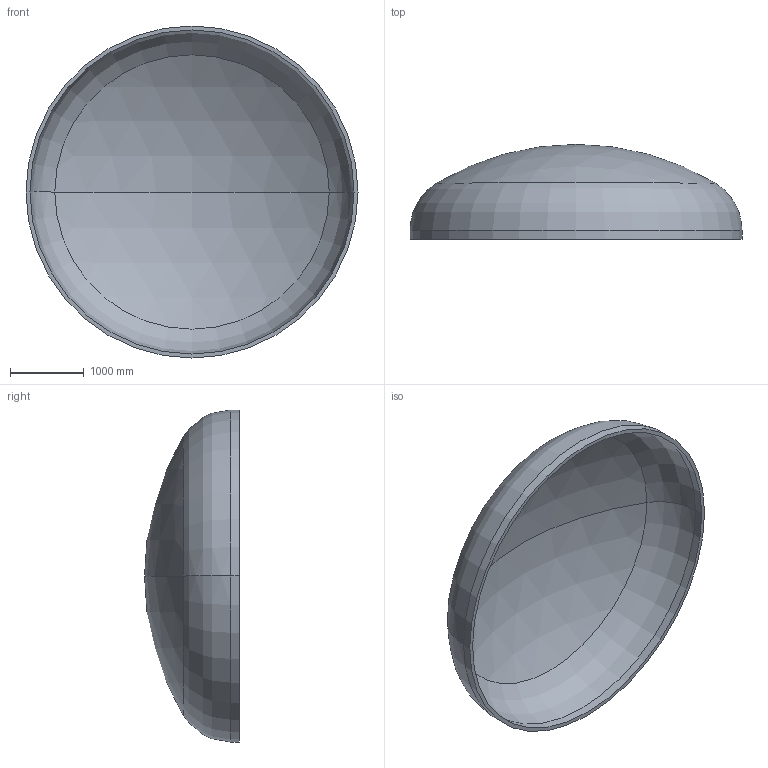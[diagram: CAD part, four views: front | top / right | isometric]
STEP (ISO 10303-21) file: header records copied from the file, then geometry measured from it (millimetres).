
FILE_DESCRIPTION (( 'STEP AP203' ), '1' );
FILE_NAME ('DIN 28013 Korbbogenform_-_Boden DIN 28013 - 4500 x 120 - I - s=54.step', '2016-07-01T23:33:27', ( '' ), ( '' ), 'SwSTEP 2.0', 'SolidWorks 2013', '' );
FILE_SCHEMA (( 'CONFIG_CONTROL_DESIGN' ));
Length unit declared in the file: millimetre
Products named in the file (1): DIN 28013 Korbbogenform_-_Boden DIN 28013 - 4500 x 120 - I - s=54
Bounding box: 4500 x 1286.83 x 4500 mm (x, y, z)
Volume: 1261921860.5 mm3; surface area: 47498182.9 mm2
Topology: 1 solids, 1 shells, 13 faces, 24 edges, 14 vertices
Faces by surface type: torus 4, cylinder 4, sphere 4, plane 1
Entity records: 407 total; most frequent: DIRECTION 72, CARTESIAN_POINT 52, ORIENTED_EDGE 48, AXIS2_PLACEMENT_3D 34, EDGE_CURVE 24, CIRCLE 20, EDGE_LOOP 14, VERTEX_POINT 14
